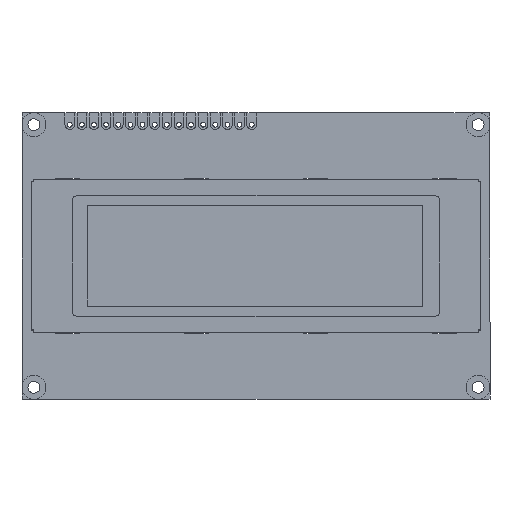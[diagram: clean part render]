
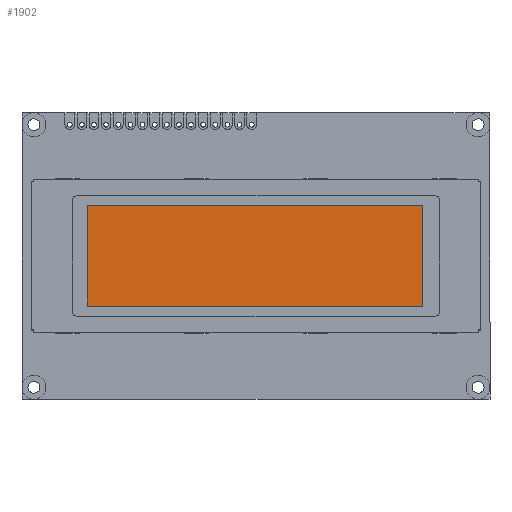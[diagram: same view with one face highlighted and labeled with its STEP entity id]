
A CAD part, top view. The second image highlights one B-rep face of the part: STEP entity #1902.
In plain terms, the highlighted planar face has unit normal (0, 0, 1).
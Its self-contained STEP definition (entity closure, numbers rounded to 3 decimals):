
#484 = ORIENTED_EDGE ( 'NONE', *, *, #3989, .T. ) ;
#778 = CARTESIAN_POINT ( 'NONE',  ( -35.37, 10.47, 6.1 ) ) ;
#991 = AXIS2_PLACEMENT_3D ( 'NONE', #3917, #13688, #5349 ) ;
#1476 = CARTESIAN_POINT ( 'NONE',  ( 34.79, 10.47, 6.1 ) ) ;
#1902 = ADVANCED_FACE ( 'NONE', ( #6649 ), #16429, .T. ) ;
#2919 = VECTOR ( 'NONE', #6166, 1000. ) ;
#3218 = EDGE_CURVE ( 'NONE', #13055, #16680, #16580, .T. ) ;
#3354 = CARTESIAN_POINT ( 'NONE',  ( -35.37, -10.48, 6.1 ) ) ;
#3917 = CARTESIAN_POINT ( 'NONE',  ( 0., 0., 6.1 ) ) ;
#3989 = EDGE_CURVE ( 'NONE', #5254, #6478, #17547, .T. ) ;
#4271 = LINE ( 'NONE', #16405, #14982 ) ;
#5254 = VERTEX_POINT ( 'NONE', #10146 ) ;
#5349 = DIRECTION ( 'NONE',  ( 1., 0., 0. ) ) ;
#6166 = DIRECTION ( 'NONE',  ( 1., 0., 0. ) ) ;
#6462 = VECTOR ( 'NONE', #12269, 1000. ) ;
#6463 = DIRECTION ( 'NONE',  ( 0., -1., 0. ) ) ;
#6478 = VERTEX_POINT ( 'NONE', #9196 ) ;
#6649 = FACE_OUTER_BOUND ( 'NONE', #13916, .T. ) ;
#7750 = EDGE_CURVE ( 'NONE', #6478, #13055, #4271, .T. ) ;
#9157 = VECTOR ( 'NONE', #6463, 1000. ) ;
#9196 = CARTESIAN_POINT ( 'NONE',  ( 34.79, 10.47, 6.1 ) ) ;
#10146 = CARTESIAN_POINT ( 'NONE',  ( 34.79, -10.48, 6.1 ) ) ;
#10540 = EDGE_CURVE ( 'NONE', #16680, #5254, #13634, .T. ) ;
#10854 = ORIENTED_EDGE ( 'NONE', *, *, #7750, .T. ) ;
#12256 = CARTESIAN_POINT ( 'NONE',  ( -35.37, -10.48, 6.1 ) ) ;
#12269 = DIRECTION ( 'NONE',  ( 0., 1., 0. ) ) ;
#13055 = VERTEX_POINT ( 'NONE', #14836 ) ;
#13634 = LINE ( 'NONE', #3354, #2919 ) ;
#13688 = DIRECTION ( 'NONE',  ( 0., 0., 1. ) ) ;
#13916 = EDGE_LOOP ( 'NONE', ( #15071, #16285, #484, #10854 ) ) ;
#14836 = CARTESIAN_POINT ( 'NONE',  ( -35.37, 10.47, 6.1 ) ) ;
#14982 = VECTOR ( 'NONE', #15119, 1000. ) ;
#15071 = ORIENTED_EDGE ( 'NONE', *, *, #3218, .T. ) ;
#15119 = DIRECTION ( 'NONE',  ( -1., 0., 0. ) ) ;
#16285 = ORIENTED_EDGE ( 'NONE', *, *, #10540, .T. ) ;
#16405 = CARTESIAN_POINT ( 'NONE',  ( -35.37, 10.47, 6.1 ) ) ;
#16429 = PLANE ( 'NONE',  #991 ) ;
#16580 = LINE ( 'NONE', #778, #9157 ) ;
#16680 = VERTEX_POINT ( 'NONE', #12256 ) ;
#17547 = LINE ( 'NONE', #1476, #6462 ) ;
